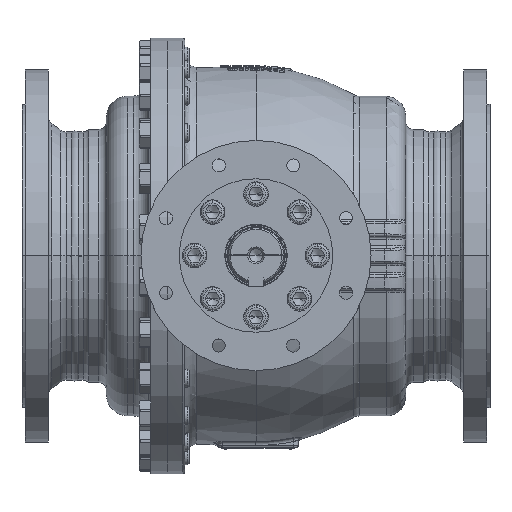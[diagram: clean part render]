
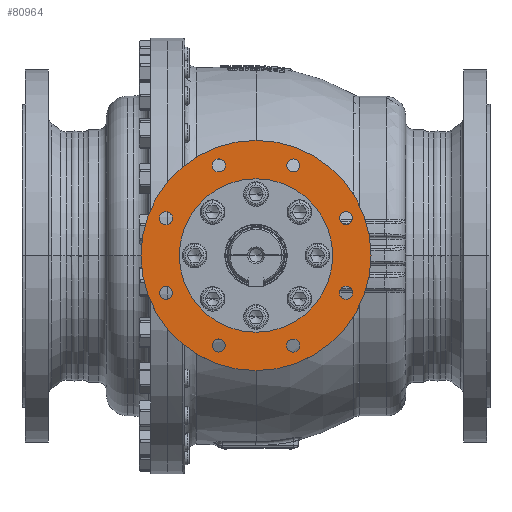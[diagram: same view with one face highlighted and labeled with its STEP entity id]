
A CAD part, top view. The second image highlights one B-rep face of the part: STEP entity #80964.
In plain terms, the highlighted planar face has unit normal (0, 0, 1).
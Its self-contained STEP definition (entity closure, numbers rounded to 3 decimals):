
#10357=CARTESIAN_POINT('',(0.,0.,376.));
#10358=DIRECTION('',(0.,0.,1.));
#10359=DIRECTION('',(0.,1.,0.));
#10360=AXIS2_PLACEMENT_3D('',#10357,#10358,#10359);
#10362=CARTESIAN_POINT('',(0.,0.,376.));
#10363=DIRECTION('',(0.,0.,-1.));
#10364=DIRECTION('',(0.,1.,0.));
#10365=AXIS2_PLACEMENT_3D('',#10362,#10363,#10364);
#10367=CARTESIAN_POINT('',(-48.601,-117.333,376.));
#10368=DIRECTION('',(0.,0.,-1.));
#10369=DIRECTION('',(0.,-1.,0.));
#10370=AXIS2_PLACEMENT_3D('',#10367,#10368,#10369);
#10372=CARTESIAN_POINT('',(-48.601,-117.333,376.));
#10373=DIRECTION('',(0.,0.,-1.));
#10374=DIRECTION('',(0.,1.,0.));
#10375=AXIS2_PLACEMENT_3D('',#10372,#10373,#10374);
#10377=CARTESIAN_POINT('',(-117.333,-48.601,376.));
#10378=DIRECTION('',(0.,0.,-1.));
#10379=DIRECTION('',(-0.707,-0.707,0.));
#10380=AXIS2_PLACEMENT_3D('',#10377,#10378,#10379);
#10382=CARTESIAN_POINT('',(-117.333,-48.601,376.));
#10383=DIRECTION('',(0.,0.,-1.));
#10384=DIRECTION('',(0.707,0.707,0.));
#10385=AXIS2_PLACEMENT_3D('',#10382,#10383,#10384);
#10387=CARTESIAN_POINT('',(-117.333,48.601,376.));
#10388=DIRECTION('',(0.,0.,-1.));
#10389=DIRECTION('',(-1.,0.,0.));
#10390=AXIS2_PLACEMENT_3D('',#10387,#10388,#10389);
#10392=CARTESIAN_POINT('',(-117.333,48.601,376.));
#10393=DIRECTION('',(0.,0.,-1.));
#10394=DIRECTION('',(1.,0.,0.));
#10395=AXIS2_PLACEMENT_3D('',#10392,#10393,#10394);
#10397=CARTESIAN_POINT('',(-48.601,117.333,376.));
#10398=DIRECTION('',(0.,0.,-1.));
#10399=DIRECTION('',(-0.707,0.707,0.));
#10400=AXIS2_PLACEMENT_3D('',#10397,#10398,#10399);
#10402=CARTESIAN_POINT('',(-48.601,117.333,376.));
#10403=DIRECTION('',(0.,0.,-1.));
#10404=DIRECTION('',(0.707,-0.707,0.));
#10405=AXIS2_PLACEMENT_3D('',#10402,#10403,#10404);
#10407=CARTESIAN_POINT('',(48.601,117.333,376.));
#10408=DIRECTION('',(0.,0.,-1.));
#10409=DIRECTION('',(0.,1.,0.));
#10410=AXIS2_PLACEMENT_3D('',#10407,#10408,#10409);
#10412=CARTESIAN_POINT('',(48.601,117.333,376.));
#10413=DIRECTION('',(0.,0.,-1.));
#10414=DIRECTION('',(0.,-1.,0.));
#10415=AXIS2_PLACEMENT_3D('',#10412,#10413,#10414);
#10417=CARTESIAN_POINT('',(117.333,48.601,376.));
#10418=DIRECTION('',(0.,0.,-1.));
#10419=DIRECTION('',(0.707,0.707,0.));
#10420=AXIS2_PLACEMENT_3D('',#10417,#10418,#10419);
#10422=CARTESIAN_POINT('',(117.333,48.601,376.));
#10423=DIRECTION('',(0.,0.,-1.));
#10424=DIRECTION('',(-0.707,-0.707,0.));
#10425=AXIS2_PLACEMENT_3D('',#10422,#10423,#10424);
#10427=CARTESIAN_POINT('',(117.333,-48.601,376.));
#10428=DIRECTION('',(0.,0.,-1.));
#10429=DIRECTION('',(1.,0.,0.));
#10430=AXIS2_PLACEMENT_3D('',#10427,#10428,#10429);
#10432=CARTESIAN_POINT('',(117.333,-48.601,376.));
#10433=DIRECTION('',(0.,0.,-1.));
#10434=DIRECTION('',(-1.,0.,0.));
#10435=AXIS2_PLACEMENT_3D('',#10432,#10433,#10434);
#10437=CARTESIAN_POINT('',(48.601,-117.333,376.));
#10438=DIRECTION('',(0.,0.,-1.));
#10439=DIRECTION('',(0.707,-0.707,0.));
#10440=AXIS2_PLACEMENT_3D('',#10437,#10438,#10439);
#10442=CARTESIAN_POINT('',(48.601,-117.333,376.));
#10443=DIRECTION('',(0.,0.,-1.));
#10444=DIRECTION('',(-0.707,0.707,0.));
#10445=AXIS2_PLACEMENT_3D('',#10442,#10443,#10444);
#10451=CARTESIAN_POINT('',(0.,0.,376.));
#10452=DIRECTION('',(0.,0.,-1.));
#10453=DIRECTION('',(0.,1.,0.));
#10454=AXIS2_PLACEMENT_3D('',#10451,#10452,#10453);
#10460=CARTESIAN_POINT('',(0.,0.,376.));
#10461=DIRECTION('',(0.,0.,1.));
#10462=DIRECTION('',(0.,1.,0.));
#10463=AXIS2_PLACEMENT_3D('',#10460,#10461,#10462);
#63306=CARTESIAN_POINT('',(0.,100.,376.));
#63308=VERTEX_POINT('',#63306);
#63310=CARTESIAN_POINT('',(0.,-100.,376.));
#63312=VERTEX_POINT('',#63310);
#63382=CARTESIAN_POINT('',(-48.601,-125.833,376.));
#63383=CARTESIAN_POINT('',(-48.601,-108.833,376.));
#63384=VERTEX_POINT('',#63382);
#63385=VERTEX_POINT('',#63383);
#63388=CARTESIAN_POINT('',(-123.343,-54.611,376.));
#63389=CARTESIAN_POINT('',(-111.322,-42.59,376.));
#63390=VERTEX_POINT('',#63388);
#63391=VERTEX_POINT('',#63389);
#63394=CARTESIAN_POINT('',(-125.833,48.601,376.));
#63395=CARTESIAN_POINT('',(-108.833,48.601,376.));
#63396=VERTEX_POINT('',#63394);
#63397=VERTEX_POINT('',#63395);
#63400=CARTESIAN_POINT('',(-54.611,123.343,376.));
#63401=CARTESIAN_POINT('',(-42.59,111.322,376.));
#63402=VERTEX_POINT('',#63400);
#63403=VERTEX_POINT('',#63401);
#63415=CARTESIAN_POINT('',(0.,150.,376.));
#63417=VERTEX_POINT('',#63415);
#63419=CARTESIAN_POINT('',(0.,-150.,376.));
#63421=VERTEX_POINT('',#63419);
#63430=CARTESIAN_POINT('',(48.601,125.833,376.));
#63431=CARTESIAN_POINT('',(48.601,108.833,376.));
#63432=VERTEX_POINT('',#63430);
#63433=VERTEX_POINT('',#63431);
#63438=CARTESIAN_POINT('',(123.343,54.611,376.));
#63439=CARTESIAN_POINT('',(111.322,42.59,376.));
#63440=VERTEX_POINT('',#63438);
#63441=VERTEX_POINT('',#63439);
#63446=CARTESIAN_POINT('',(125.833,-48.601,376.));
#63447=CARTESIAN_POINT('',(108.833,-48.601,376.));
#63448=VERTEX_POINT('',#63446);
#63449=VERTEX_POINT('',#63447);
#63454=CARTESIAN_POINT('',(54.611,-123.343,376.));
#63455=CARTESIAN_POINT('',(42.59,-111.322,376.));
#63456=VERTEX_POINT('',#63454);
#63457=VERTEX_POINT('',#63455);
#80901=CARTESIAN_POINT('',(0.,0.,376.));
#80902=DIRECTION('',(0.,0.,1.));
#80903=DIRECTION('',(0.,1.,0.));
#80904=AXIS2_PLACEMENT_3D('',#80901,#80902,#80903);
#80905=PLANE('',#80904);
#80906=ORIENTED_EDGE('',*,*,#80894,.F.);
#80907=ORIENTED_EDGE('',*,*,#80883,.T.);
#80908=EDGE_LOOP('',(#80906,#80907));
#80909=FACE_OUTER_BOUND('',#80908,.F.);
#80911=ORIENTED_EDGE('',*,*,#80910,.F.);
#80913=ORIENTED_EDGE('',*,*,#80912,.T.);
#80914=EDGE_LOOP('',(#80911,#80913));
#80915=FACE_BOUND('',#80914,.F.);
#80917=ORIENTED_EDGE('',*,*,#80916,.F.);
#80919=ORIENTED_EDGE('',*,*,#80918,.F.);
#80920=EDGE_LOOP('',(#80917,#80919));
#80921=FACE_BOUND('',#80920,.F.);
#80923=ORIENTED_EDGE('',*,*,#80922,.F.);
#80925=ORIENTED_EDGE('',*,*,#80924,.F.);
#80926=EDGE_LOOP('',(#80923,#80925));
#80927=FACE_BOUND('',#80926,.F.);
#80929=ORIENTED_EDGE('',*,*,#80928,.F.);
#80931=ORIENTED_EDGE('',*,*,#80930,.F.);
#80932=EDGE_LOOP('',(#80929,#80931));
#80933=FACE_BOUND('',#80932,.F.);
#80935=ORIENTED_EDGE('',*,*,#80934,.F.);
#80937=ORIENTED_EDGE('',*,*,#80936,.F.);
#80938=EDGE_LOOP('',(#80935,#80937));
#80939=FACE_BOUND('',#80938,.F.);
#80941=ORIENTED_EDGE('',*,*,#80940,.F.);
#80943=ORIENTED_EDGE('',*,*,#80942,.F.);
#80944=EDGE_LOOP('',(#80941,#80943));
#80945=FACE_BOUND('',#80944,.F.);
#80947=ORIENTED_EDGE('',*,*,#80946,.F.);
#80949=ORIENTED_EDGE('',*,*,#80948,.F.);
#80950=EDGE_LOOP('',(#80947,#80949));
#80951=FACE_BOUND('',#80950,.F.);
#80953=ORIENTED_EDGE('',*,*,#80952,.F.);
#80955=ORIENTED_EDGE('',*,*,#80954,.F.);
#80956=EDGE_LOOP('',(#80953,#80955));
#80957=FACE_BOUND('',#80956,.F.);
#80959=ORIENTED_EDGE('',*,*,#80958,.F.);
#80961=ORIENTED_EDGE('',*,*,#80960,.F.);
#80962=EDGE_LOOP('',(#80959,#80961));
#80963=FACE_BOUND('',#80962,.F.);
#80964=ADVANCED_FACE('',(#80909,#80915,#80921,#80927,#80933,#80939,#80945,
#80951,#80957,#80963),#80905,.T.);
#10361=CIRCLE('',#10360,150.);
#10366=CIRCLE('',#10365,150.);
#10371=CIRCLE('',#10370,8.5);
#10376=CIRCLE('',#10375,8.5);
#10381=CIRCLE('',#10380,8.5);
#10386=CIRCLE('',#10385,8.5);
#10391=CIRCLE('',#10390,8.5);
#10396=CIRCLE('',#10395,8.5);
#10401=CIRCLE('',#10400,8.5);
#10406=CIRCLE('',#10405,8.5);
#10411=CIRCLE('',#10410,8.5);
#10416=CIRCLE('',#10415,8.5);
#10421=CIRCLE('',#10420,8.5);
#10426=CIRCLE('',#10425,8.5);
#10431=CIRCLE('',#10430,8.5);
#10436=CIRCLE('',#10435,8.5);
#10441=CIRCLE('',#10440,8.5);
#10446=CIRCLE('',#10445,8.5);
#10455=CIRCLE('',#10454,100.);
#10464=CIRCLE('',#10463,100.);
#80883=EDGE_CURVE('',#63417,#63421,#10366,.T.);
#80894=EDGE_CURVE('',#63417,#63421,#10361,.T.);
#80910=EDGE_CURVE('',#63308,#63312,#10455,.T.);
#80912=EDGE_CURVE('',#63308,#63312,#10464,.T.);
#80916=EDGE_CURVE('',#63384,#63385,#10371,.T.);
#80918=EDGE_CURVE('',#63385,#63384,#10376,.T.);
#80922=EDGE_CURVE('',#63390,#63391,#10381,.T.);
#80924=EDGE_CURVE('',#63391,#63390,#10386,.T.);
#80928=EDGE_CURVE('',#63396,#63397,#10391,.T.);
#80930=EDGE_CURVE('',#63397,#63396,#10396,.T.);
#80934=EDGE_CURVE('',#63402,#63403,#10401,.T.);
#80936=EDGE_CURVE('',#63403,#63402,#10406,.T.);
#80940=EDGE_CURVE('',#63432,#63433,#10411,.T.);
#80942=EDGE_CURVE('',#63433,#63432,#10416,.T.);
#80946=EDGE_CURVE('',#63440,#63441,#10421,.T.);
#80948=EDGE_CURVE('',#63441,#63440,#10426,.T.);
#80952=EDGE_CURVE('',#63448,#63449,#10431,.T.);
#80954=EDGE_CURVE('',#63449,#63448,#10436,.T.);
#80958=EDGE_CURVE('',#63456,#63457,#10441,.T.);
#80960=EDGE_CURVE('',#63457,#63456,#10446,.T.);
